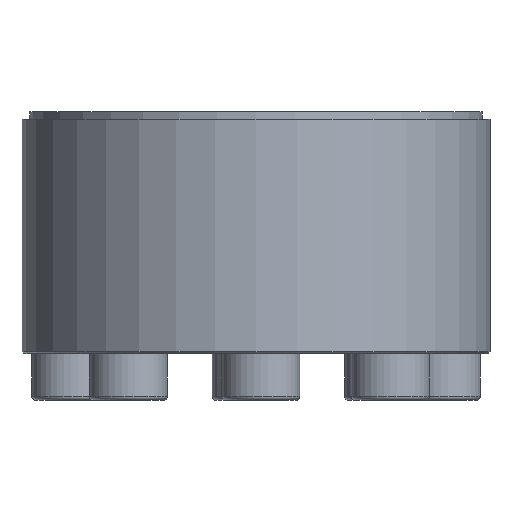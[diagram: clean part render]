
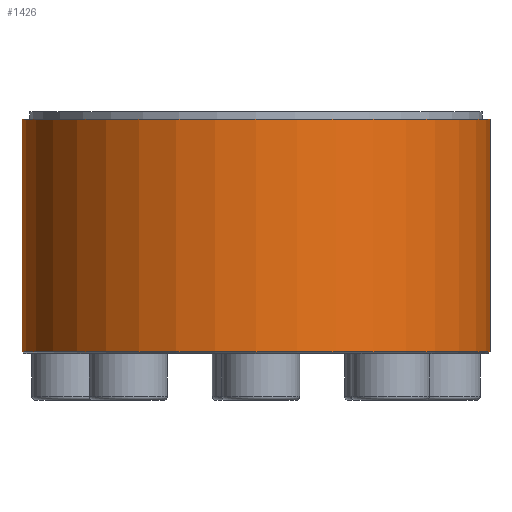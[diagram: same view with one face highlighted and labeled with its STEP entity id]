
A CAD part, front view. The second image highlights one B-rep face of the part: STEP entity #1426.
In plain terms, the highlighted cylindrical face has radius 30 mm (diameter 60 mm), a partial arc.
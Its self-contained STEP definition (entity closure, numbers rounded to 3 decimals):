
#93 = DIRECTION ( 'NONE',  ( 0., 0., -1. ) ) ;
#181 = EDGE_CURVE ( 'NONE', #289, #1206, #728, .T. ) ;
#195 = FACE_OUTER_BOUND ( 'NONE', #2762, .T. ) ;
#206 = DIRECTION ( 'NONE',  ( 0., 0., -1. ) ) ;
#289 = VERTEX_POINT ( 'NONE', #1640 ) ;
#517 = AXIS2_PLACEMENT_3D ( 'NONE', #1169, #206, #1183 ) ;
#520 = EDGE_CURVE ( 'NONE', #289, #566, #2299, .T. ) ;
#566 = VERTEX_POINT ( 'NONE', #1284 ) ;
#728 = LINE ( 'NONE', #1078, #1931 ) ;
#764 = CARTESIAN_POINT ( 'NONE',  ( -30., 0., -15.3 ) ) ;
#961 = VECTOR ( 'NONE', #2874, 1000. ) ;
#1078 = CARTESIAN_POINT ( 'NONE',  ( 30., 0., 0. ) ) ;
#1120 = EDGE_CURVE ( 'NONE', #566, #1643, #2064, .T. ) ;
#1134 = CIRCLE ( 'NONE', #2380, 30. ) ;
#1169 = CARTESIAN_POINT ( 'NONE',  ( 0., 0., 0. ) ) ;
#1183 = DIRECTION ( 'NONE',  ( -1., 0., 0. ) ) ;
#1206 = VERTEX_POINT ( 'NONE', #3144 ) ;
#1229 = CARTESIAN_POINT ( 'NONE',  ( 0., 0., -15.3 ) ) ;
#1250 = ORIENTED_EDGE ( 'NONE', *, *, #520, .T. ) ;
#1284 = CARTESIAN_POINT ( 'NONE',  ( -30., 0., 14.5 ) ) ;
#1426 = ADVANCED_FACE ( 'NONE', ( #195 ), #2027, .T. ) ;
#1478 = DIRECTION ( 'NONE',  ( 0., 0., 1. ) ) ;
#1640 = CARTESIAN_POINT ( 'NONE',  ( 30., 0., 14.5 ) ) ;
#1643 = VERTEX_POINT ( 'NONE', #764 ) ;
#1743 = DIRECTION ( 'NONE',  ( 1., 0., 0. ) ) ;
#1769 = ORIENTED_EDGE ( 'NONE', *, *, #1120, .T. ) ;
#1847 = AXIS2_PLACEMENT_3D ( 'NONE', #2257, #93, #1743 ) ;
#1931 = VECTOR ( 'NONE', #2761, 1000. ) ;
#1946 = ORIENTED_EDGE ( 'NONE', *, *, #2640, .T. ) ;
#2027 = CYLINDRICAL_SURFACE ( 'NONE', #517, 30. ) ;
#2064 = LINE ( 'NONE', #2368, #961 ) ;
#2257 = CARTESIAN_POINT ( 'NONE',  ( 0., 0., 14.5 ) ) ;
#2299 = CIRCLE ( 'NONE', #1847, 30. ) ;
#2368 = CARTESIAN_POINT ( 'NONE',  ( -30., 0., 0. ) ) ;
#2380 = AXIS2_PLACEMENT_3D ( 'NONE', #1229, #1478, #2908 ) ;
#2640 = EDGE_CURVE ( 'NONE', #1643, #1206, #1134, .T. ) ;
#2743 = ORIENTED_EDGE ( 'NONE', *, *, #181, .F. ) ;
#2761 = DIRECTION ( 'NONE',  ( 0., 0., -1. ) ) ;
#2762 = EDGE_LOOP ( 'NONE', ( #2743, #1250, #1769, #1946 ) ) ;
#2874 = DIRECTION ( 'NONE',  ( 0., 0., -1. ) ) ;
#2908 = DIRECTION ( 'NONE',  ( -1., 0., 0. ) ) ;
#3144 = CARTESIAN_POINT ( 'NONE',  ( 30., 0., -15.3 ) ) ;
